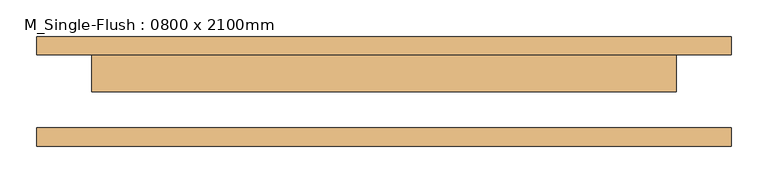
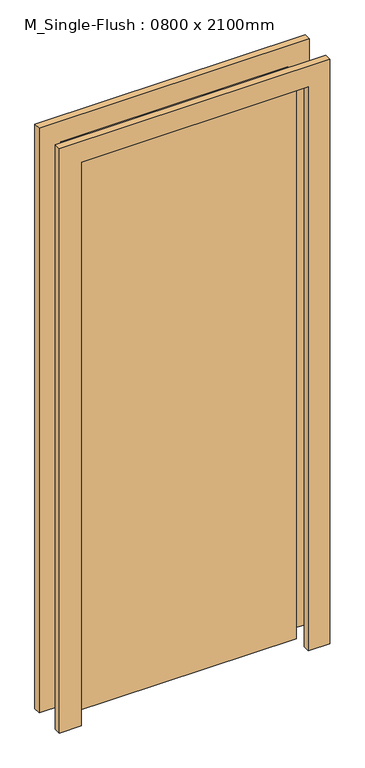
"""IFC4 building model written with IfcOpenShell, lengths in millimetres: door geometry, M_Single-Flush : 0800 x 2100mm."""

from ifc_helpers import new_model, si_unit, frame, origin, origin_with_axes, place, context, project, spatial, polyline, outline, extrude, source, transform, mapped, element, save


def m_single_flush_0800_x_2100mm_5931a049(model_context):
    return source(origin(), model_context, "Body", "SweptSolid", [
        extrude(outline(polyline([(2176.0, -476.0), (0.0, -476.0), (0.0, -400.0), (2100.0, -400.0), (2100.0, 400.0), (0.0, 400.0), (0.0, 476.0), (2176.0, 476.0), (2176.0, -476.0)])), frame((0.0, 50.0, 0.0), z_axis=(0.0, 1.0, 0.0), x_axis=(0.0, 0.0, 1.0)), (0.0, 0.0, 1.0), 25.0),
        extrude(outline(polyline([(2176.0, 476.0), (2176.0, -476.0), (0.0, -476.0), (0.0, -400.0), (2100.0, -400.0), (2100.0, 400.0), (0.0, 400.0), (0.0, 476.0), (2176.0, 476.0)])), frame((0.0, -75.0, 0.0), z_axis=(0.0, 1.0, 0.0), x_axis=(0.0, 0.0, 1.0)), (0.0, 0.0, 1.0), 25.0),
        extrude(outline(polyline([(400.0, -1.0), (-400.0, -1.0), (-400.0, 50.0), (400.0, 50.0), (400.0, -1.0)])), origin_with_axes(), (0.0, 0.0, 1.0), 2100.0),
    ])


if __name__ == "__main__":
    model = new_model("IFC4")
    model_context = context("Model", 3, world=origin())
    ifc_project = project(units=[si_unit("LENGTHUNIT", "METRE", prefix="MILLI")], contexts=[model_context])
    site = spatial("IfcSite", under=ifc_project)
    building = spatial("IfcBuilding", under=site)
    placement = place(None, origin())
    m_single_flush_0800_x_2100mm_shape = m_single_flush_0800_x_2100mm_5931a049(model_context)
    element("IfcDoor", 1, ObjectType="M_Single-Flush : 0800 x 2100mm", at=placement, inside=building, context=model_context, shape_type="MappedRepresentation", body=[
        mapped(m_single_flush_0800_x_2100mm_shape, transform((0.0, 0.0, 0.0), x_axis=(1.0, 0.0, 0.0), y_axis=(0.0, 1.0, 0.0), z_axis=(0.0, 0.0, 1.0))),
    ])
    save(model, "model.ifc")
